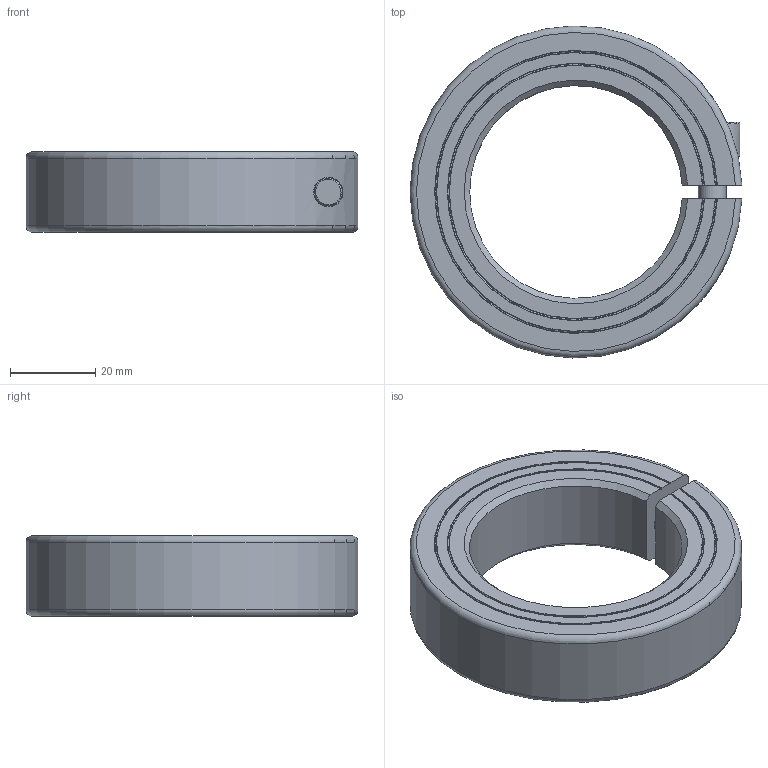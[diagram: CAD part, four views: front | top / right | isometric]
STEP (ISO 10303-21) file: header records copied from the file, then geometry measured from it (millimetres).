
FILE_DESCRIPTION((''),'2;1');
FILE_NAME('MCL-50-F','2016-09-08T',('SYSTEM'),(''),'PRO/ENGINEER BY PARAMETRIC TECHNOLOGY CORPORATION, 2015110','PRO/ENGINEER BY PARAMETRIC TECHNOLOGY CORPORATION, 2015110','');
FILE_SCHEMA(('AUTOMOTIVE_DESIGN { 1 0 10303 214 1 1 1 1 }'));
Length unit declared in the file: inch
Products named in the file (1): MCL-50-F
Bounding box: 77.97 x 77.98 x 19 mm (x, y, z)
Volume: 50643.8 mm3; surface area: 14977.5 mm2
Topology: 1 solids, 1 shells, 43 faces, 111 edges, 74 vertices
Faces by surface type: plane 18, cylinder 11, cone 10, torus 4
Entity records: 1810 total; most frequent: CARTESIAN_POINT 389, ORIENTED_EDGE 222, DIRECTION 217, EDGE_CURVE 111, AXIS2_PLACEMENT_3D 86, VERTEX_POINT 74, EDGE_LOOP 49, VECTOR 45
